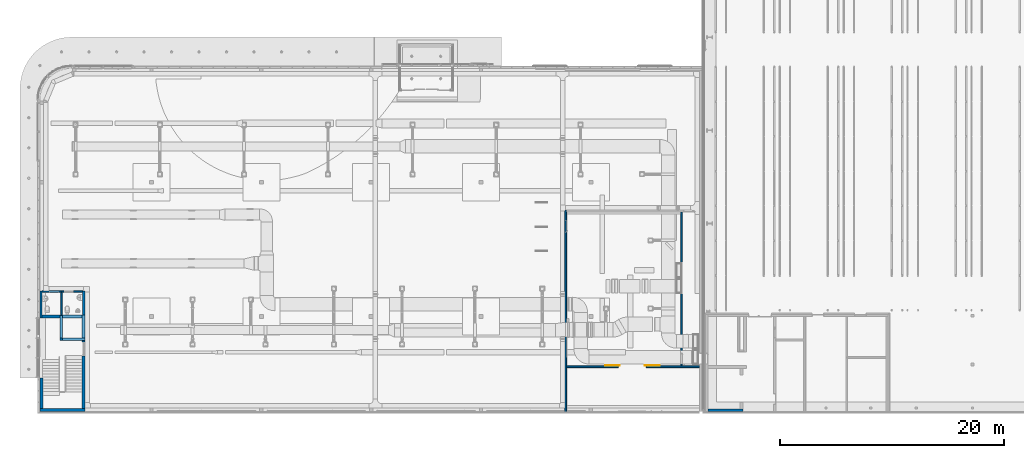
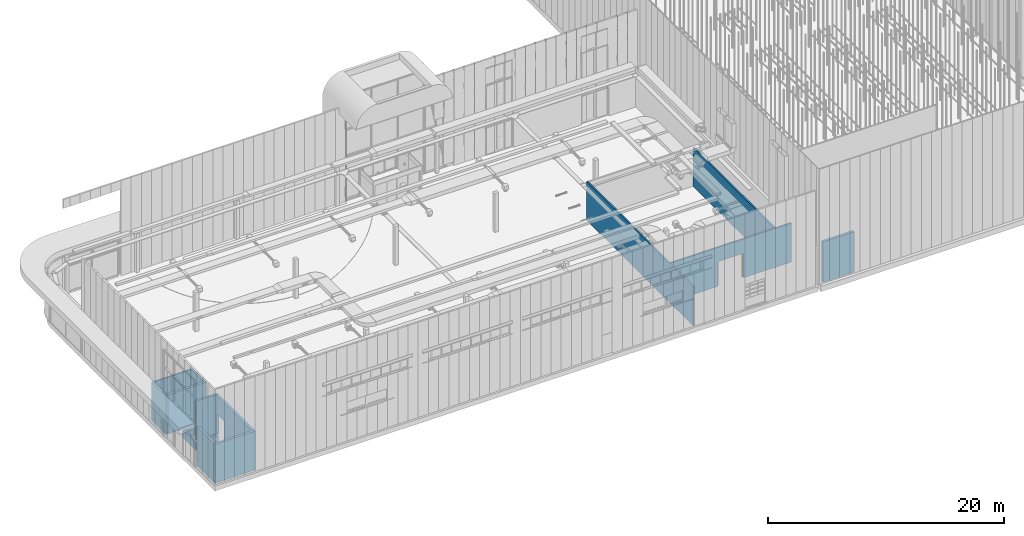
# One storey, part 208 of 302: 17 walls, 1 door, 9 openings.
"""IFC2X3 building model written with IfcOpenShell, lengths in metres."""

from ifc_helpers import new_model, entity, si_unit, converted_unit, derived_unit, direction, frame, frame_2d, origin, origin_2d_with_axis, place, context, subcontext, project, spatial, polyline, rectangle, outline, extrude, source, transform, mapped, material, material_list, layer, layer_set, layer_usage, type_object, type_shapes, element, fill, save


model = new_model("IFC2X3")

# Units and contexts
model_context = context("Model", 3, precision=1e-05, world=origin(), true_north=direction((6.12303176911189e-17, 1.0)))
body_context = subcontext(model_context, "Body", "Model", "MODEL_VIEW")
ifc_project = project(units=[si_unit("LENGTHUNIT", "METRE"), si_unit("AREAUNIT", "SQUARE_METRE"), si_unit("VOLUMEUNIT", "CUBIC_METRE"), converted_unit("PLANEANGLEUNIT", "DEGREE", entity("IfcRatioMeasure", 0.0174532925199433), si_unit("PLANEANGLEUNIT", "RADIAN"), dimensions=[0, 0, 0, 0, 0, 0, 0]), si_unit("MASSUNIT", "GRAM", prefix="KILO"), derived_unit("MASSDENSITYUNIT", [(si_unit("MASSUNIT", "GRAM", prefix="KILO"), 1), (si_unit("LENGTHUNIT", "METRE"), -3)]), derived_unit("MOMENTOFINERTIAUNIT", [(si_unit("LENGTHUNIT", "METRE"), 4)]), si_unit("TIMEUNIT", "SECOND"), si_unit("FREQUENCYUNIT", "HERTZ"), si_unit("THERMODYNAMICTEMPERATUREUNIT", "DEGREE_CELSIUS"), derived_unit("THERMALTRANSMITTANCEUNIT", [(si_unit("MASSUNIT", "GRAM", prefix="KILO"), 1), (si_unit("THERMODYNAMICTEMPERATUREUNIT", "KELVIN"), -1), (si_unit("TIMEUNIT", "SECOND"), -3)]), derived_unit("VOLUMETRICFLOWRATEUNIT", [(si_unit("LENGTHUNIT", "METRE"), 3), (si_unit("TIMEUNIT", "SECOND"), -1)]), si_unit("ELECTRICCURRENTUNIT", "AMPERE"), si_unit("ELECTRICVOLTAGEUNIT", "VOLT"), si_unit("POWERUNIT", "WATT"), si_unit("FORCEUNIT", "NEWTON", prefix="KILO"), si_unit("ILLUMINANCEUNIT", "LUX"), si_unit("LUMINOUSFLUXUNIT", "LUMEN"), si_unit("LUMINOUSINTENSITYUNIT", "CANDELA"), derived_unit("USERDEFINED", [(si_unit("MASSUNIT", "GRAM", prefix="KILO"), -1), (si_unit("LENGTHUNIT", "METRE"), -2), (si_unit("TIMEUNIT", "SECOND"), 3), (si_unit("LUMINOUSFLUXUNIT", "LUMEN"), 1)]), derived_unit("LINEARVELOCITYUNIT", [(si_unit("LENGTHUNIT", "METRE"), 1), (si_unit("TIMEUNIT", "SECOND"), -1)]), si_unit("PRESSUREUNIT", "PASCAL"), derived_unit("USERDEFINED", [(si_unit("LENGTHUNIT", "METRE"), -2), (si_unit("MASSUNIT", "GRAM", prefix="KILO"), 1), (si_unit("TIMEUNIT", "SECOND"), -2)]), derived_unit("LINEARFORCEUNIT", [(si_unit("MASSUNIT", "GRAM", prefix="KILO"), 1), (si_unit("LENGTHUNIT", "METRE"), 1), (si_unit("TIMEUNIT", "SECOND"), -2), (si_unit("LENGTHUNIT", "METRE"), -1)]), derived_unit("PLANARFORCEUNIT", [(si_unit("MASSUNIT", "GRAM", prefix="KILO"), 1), (si_unit("LENGTHUNIT", "METRE"), 1), (si_unit("TIMEUNIT", "SECOND"), -2), (si_unit("LENGTHUNIT", "METRE"), -2)])], contexts=[model_context])

# Site, building, storey
site_placement = place(None, origin())
site = spatial("IfcSite", under=ifc_project, at=site_placement, Name="Default", CompositionType="ELEMENT")
building_placement = place(site_placement, origin())
building = spatial("IfcBuilding", under=site, at=building_placement, CompositionType="ELEMENT")
storey_placement = place(building_placement, frame((0.0, 0.0, -1.3)))
storey = spatial("IfcBuildingStorey", under=building, at=storey_placement, Name="00_EG", CompositionType="ELEMENT", Elevation=-1.3)

# Walls
ifc_material_1 = material(Name="Concrete, Wand")
ifc_layer_1 = layer(ifc_material_1, 0.25)
ifc_layer_set_1 = layer_set([ifc_layer_1], Name="Basiswand:Betonwand aussen 250cm")
ifc_layer_usage_1 = layer_usage(ifc_layer_set_1, "AXIS2", "NEGATIVE", 0.125)
wall_type_1 = type_object("IfcWallType", Name="Basiswand:Betonwand aussen 250cm", PredefinedType="STANDARD", material=ifc_layer_set_1)
wall_1_placement = place(storey_placement, frame((-266.660111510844, 15.123088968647, 1.27)))
element("IfcWallStandardCase", 1, at=wall_1_placement, inside=storey, type_object=wall_type_1, material=ifc_layer_usage_1, Name="Basiswand:Betonwand aussen 250cm", ObjectType="Basiswand:Betonwand aussen 250cm", context=body_context, shape_type="SweptSolid", body=[
    extrude(rectangle(XDim=3.99999999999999, YDim=0.25, at=frame_2d((2.0, -1.52655665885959e-16), x_axis=(-1.0, 0.0))), origin(), (0.0, 0.0, 1.0), 4.03),
])
ifc_layer_usage_2 = layer_usage(ifc_layer_set_1, "AXIS2", "NEGATIVE", 0.125)
wall_2_placement = place(storey_placement, frame((-266.535111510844, 17.983088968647, 1.27), z_axis=(0.0, 0.0, 1.0), x_axis=(0.0, -1.0, 0.0)))
element("IfcWallStandardCase", 2, at=wall_2_placement, inside=storey, type_object=wall_type_1, material=ifc_layer_usage_2, Name="Basiswand:Betonwand aussen 250cm", ObjectType="Basiswand:Betonwand aussen 250cm", context=body_context, shape_type="SweptSolid", body=[
    extrude(rectangle(XDim=2.735, YDim=0.249999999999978, at=frame_2d((1.3675, 0.0), x_axis=(-1.0, 0.0))), origin(), (0.0, 0.0, 1.0), 4.03),
])
ifc_layer_2 = layer(ifc_material_1, 0.2)
ifc_layer_set_2 = layer_set([ifc_layer_2], Name="Basiswand:Betonwand innen 200cm")
ifc_layer_usage_3 = layer_usage(ifc_layer_set_2, "AXIS2", "NEGATIVE", 0.1)
wall_type_2 = type_object("IfcWallType", Name="Basiswand:Betonwand innen 200cm", PredefinedType="STANDARD", material=ifc_layer_set_2)
wall_3_placement = place(storey_placement, frame((-266.560111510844, 25.7230889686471, 1.27), z_axis=(0.0, 0.0, 1.0), x_axis=(0.0, -1.0, 0.0)))
element("IfcWallStandardCase", 3, at=wall_3_placement, inside=storey, type_object=wall_type_2, material=ifc_layer_usage_3, Name="Basiswand:Betonwand innen 200cm", ObjectType="Basiswand:Betonwand innen 200cm", context=body_context, shape_type="SweptSolid", body=[
    extrude(rectangle(XDim=2.40000000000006, YDim=0.200000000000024, at=frame_2d((1.20000000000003, 0.0), x_axis=(-1.0, 0.0))), origin(), (0.0, 0.0, 1.0), 4.03),
])
ifc_layer_usage_4 = layer_usage(ifc_layer_set_2, "AXIS2", "NEGATIVE", 0.1)
wall_4_placement = place(storey_placement, frame((-262.760111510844, 25.723088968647, 1.27), z_axis=(0.0, 0.0, 1.0), x_axis=(0.0, -1.0, 0.0)))
element("IfcWallStandardCase", 4, at=wall_4_placement, inside=storey, type_object=wall_type_2, material=ifc_layer_usage_4, Name="Basiswand:Betonwand innen 200cm", ObjectType="Basiswand:Betonwand innen 200cm", context=body_context, shape_type="SweptSolid", body=[
    extrude(rectangle(XDim=2.15, YDim=0.200000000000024, at=frame_2d((1.075, 2.29677388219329e-15), x_axis=(-1.0, 0.0))), origin(), (0.0, 0.0, 1.0), 4.03),
])
ifc_layer_usage_5 = layer_usage(ifc_layer_set_2, "AXIS2", "NEGATIVE", 0.1)
wall_5_placement = place(storey_placement, frame((-262.660111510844, 21.423088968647, 1.27), z_axis=(0.0, 0.0, 1.0), x_axis=(-1.0, 0.0, 0.0)))
element("IfcWallStandardCase", 5, at=wall_5_placement, inside=storey, type_object=wall_type_2, material=ifc_layer_usage_5, Name="Basiswand:Betonwand innen 200cm", ObjectType="Basiswand:Betonwand innen 200cm", context=body_context, shape_type="SweptSolid", body=[
    extrude(rectangle(XDim=2.19999999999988, YDim=0.199999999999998, at=frame_2d((1.09999999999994, 0.0), x_axis=(-1.0, 0.0))), origin(), (0.0, 0.0, 1.0), 4.03),
])
ifc_layer_usage_6 = layer_usage(ifc_layer_set_2, "AXIS2", "NEGATIVE", 0.1)
wall_6_placement = place(storey_placement, frame((-264.760111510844, 21.323088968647, 0.199999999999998), z_axis=(0.0, 0.0, 1.0), x_axis=(0.0, 1.0, 0.0)))
element("IfcWallStandardCase", 6, at=wall_6_placement, inside=storey, type_object=wall_type_2, material=ifc_layer_usage_6, Name="Basiswand:Betonwand innen 200cm", ObjectType="Basiswand:Betonwand innen 200cm", context=body_context, shape_type="SweptSolid", body=[
    extrude(rectangle(XDim=2.25, YDim=0.200000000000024, at=frame_2d((1.125, 0.0), x_axis=(-1.0, 0.0))), origin(), (0.0, 0.0, 1.0), 0.770000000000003),
])
ifc_layer_usage_7 = layer_usage(ifc_layer_set_2, "AXIS2", "NEGATIVE", 0.1)
wall_7_placement = place(storey_placement, frame((-262.660111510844, 21.423088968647, 0.199999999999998), z_axis=(0.0, 0.0, 1.0), x_axis=(-1.0, 0.0, 0.0)))
element("IfcWallStandardCase", 7, at=wall_7_placement, inside=storey, type_object=wall_type_2, material=ifc_layer_usage_7, Name="Basiswand:Betonwand innen 200cm", ObjectType="Basiswand:Betonwand innen 200cm", context=body_context, shape_type="SweptSolid", body=[
    extrude(rectangle(XDim=1.99999999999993, YDim=0.199999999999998, at=frame_2d((0.999999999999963, 0.0), x_axis=(-1.0, 0.0))), origin(), (0.0, 0.0, 1.0), 0.770000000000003),
])
ifc_layer_3 = layer(ifc_material_1, 0.25)
ifc_layer_set_3 = layer_set([ifc_layer_3], Name="Basiswand:Betonwand innen 250cm")
ifc_layer_usage_8 = layer_usage(ifc_layer_set_3, "AXIS2", "NEGATIVE", 0.125)
wall_type_3 = type_object("IfcWallType", Name="Basiswand:Betonwand innen 250cm", PredefinedType="STANDARD", material=ifc_layer_set_3)
wall_8_placement = place(storey_placement, frame((-262.660111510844, 23.448088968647, 1.27), z_axis=(0.0, 0.0, 1.0), x_axis=(-1.0, 0.0, 0.0)))
element("IfcWallStandardCase", 8, at=wall_8_placement, inside=storey, type_object=wall_type_3, material=ifc_layer_usage_8, Name="Basiswand:Betonwand innen 250cm", ObjectType="Basiswand:Betonwand innen 250cm", context=body_context, shape_type="SweptSolid", body=[
    extrude(rectangle(XDim=3.79999999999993, YDim=0.250000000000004, at=frame_2d((1.89999999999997, 0.0), x_axis=(-1.0, 0.0))), origin(), (0.0, 0.0, 1.0), 4.03),
])

# Wall, opening
ifc_layer_usage_9 = layer_usage(ifc_layer_set_3, "AXIS2", "NEGATIVE", 0.125)
wall_9_placement = place(storey_placement, frame((-262.785111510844, 21.323088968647, 1.27), z_axis=(0.0, 0.0, 1.0), x_axis=(0.0, -1.0, 0.0)))
wall_9 = element("IfcWallStandardCase", 9, at=wall_9_placement, inside=storey, type_object=wall_type_3, material=ifc_layer_usage_9, Name="Basiswand:Betonwand innen 250cm", ObjectType="Basiswand:Betonwand innen 250cm", context=body_context, shape_type="SweptSolid", body=[
    extrude(rectangle(XDim=6.07500000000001, YDim=0.249999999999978, at=frame_2d((3.03750000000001, 9.48546796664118e-15), x_axis=(-1.0, 0.0))), origin(), (0.0, 0.0, 1.0), 4.03),
])
opening_1_placement = place(wall_9_placement, frame((21.323088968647, 262.785111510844, -1.27), z_axis=(0.0, 0.0, 1.0), x_axis=(0.0, 1.0, 0.0)))
element("IfcOpeningElement", 10, at=opening_1_placement, cuts=wall_9, Name="Basiswand:Betonwand innen 250cm", ObjectType="Opening", context=body_context, shape_type="SweptSolid", body=[
    extrude(rectangle(XDim=2.16999999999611, YDim=1.27999999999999, at=frame_2d((-2.38142838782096e-14, 4.44089209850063e-16), x_axis=(0.0, 1.0))), frame((-262.910111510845, 20.5530889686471, 2.32499999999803), z_axis=(1.0, 0.0, 0.0), x_axis=(0.0, -1.0, 0.0)), (0.0, 0.0, 1.0), 0.250000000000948),
])

# Walls
ifc_layer_usage_10 = layer_usage(ifc_layer_set_3, "AXIS2", "NEGATIVE", 0.125)
wall_10_placement = place(storey_placement, frame((-262.785111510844, 23.573088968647, 0.199999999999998), z_axis=(0.0, 0.0, 1.0), x_axis=(0.0, -1.0, 0.0)))
element("IfcWallStandardCase", 11, at=wall_10_placement, inside=storey, type_object=wall_type_3, material=ifc_layer_usage_10, Name="Basiswand:Betonwand innen 250cm", ObjectType="Basiswand:Betonwand innen 250cm", context=body_context, shape_type="SweptSolid", body=[
    extrude(rectangle(XDim=2.05000000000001, YDim=0.249999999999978, at=frame_2d((1.025, 1.5404344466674e-15), x_axis=(-1.0, 0.0))), origin(), (0.0, 0.0, 1.0), 0.770000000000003),
])
ifc_layer_usage_11 = layer_usage(ifc_layer_set_3, "AXIS2", "NEGATIVE", 0.125)
wall_11_placement = place(storey_placement, frame((-264.660111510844, 23.448088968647, 0.199999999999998)))
element("IfcWallStandardCase", 12, at=wall_11_placement, inside=storey, type_object=wall_type_3, material=ifc_layer_usage_11, Name="Basiswand:Betonwand innen 250cm", ObjectType="Basiswand:Betonwand innen 250cm", context=body_context, shape_type="SweptSolid", body=[
    extrude(rectangle(XDim=1.74999999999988, YDim=0.250000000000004, at=frame_2d((0.87499999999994, 0.0), x_axis=(-1.0, 0.0))), origin(), (0.0, 0.0, 1.0), 0.770000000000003),
])
ifc_layer_usage_12 = layer_usage(ifc_layer_set_3, "AXIS2", "NEGATIVE", 0.125)
wall_12_placement = place(storey_placement, frame((-207.130111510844, 15.083088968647, 1.27)))
element("IfcWallStandardCase", 13, at=wall_12_placement, inside=storey, type_object=wall_type_3, material=ifc_layer_usage_12, Name="Basiswand:Betonwand innen 250cm", ObjectType="Basiswand:Betonwand innen 250cm", context=body_context, shape_type="SweptSolid", body=[
    extrude(rectangle(XDim=3.10000000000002, YDim=0.249999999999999, at=frame_2d((1.55000000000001, 0.0), x_axis=(-1.0, 0.0))), origin(), (0.0, 0.0, 1.0), 4.18),
])

# Wall, openings
ifc_material_2 = material(Name="Backstein")
ifc_layer_4 = layer(ifc_material_2, 0.125)
ifc_layer_set_4 = layer_set([ifc_layer_4], Name="Basiswand:Backstein innen 125cm")
ifc_layer_usage_13 = layer_usage(ifc_layer_set_4, "AXIS2", "NEGATIVE", 0.0625)
wall_type_4 = type_object("IfcWallType", Name="Basiswand:Backstein innen 125cm", PredefinedType="STANDARD", material=ifc_layer_set_4)
wall_13_placement = place(storey_placement, frame((-262.860111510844, 25.660588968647, 1.27), z_axis=(0.0, 0.0, 1.0), x_axis=(-1.0, 0.0, 0.0)))
wall_13 = element("IfcWallStandardCase", 14, at=wall_13_placement, inside=storey, type_object=wall_type_4, material=ifc_layer_usage_13, Name="Basiswand:Backstein innen 125cm", ObjectType="Basiswand:Backstein innen 125cm", context=body_context, shape_type="SweptSolid", body=[
    extrude(rectangle(XDim=3.59999999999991, YDim=0.124999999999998, at=frame_2d((1.79999999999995, -9.0205620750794e-16), x_axis=(-1.0, 0.0))), origin(), (0.0, 0.0, 1.0), 4.03),
])
opening_2_placement = place(wall_13_placement, frame((1.67499999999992, 0.0624999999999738, -0.180000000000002)))
element("IfcOpeningElement", 15, at=opening_2_placement, cuts=wall_13, Name="TU DF 1 - Rahmenstock flächenbündig:Türe innen 1-Teilig 0.88 x 2.14:1", ObjectType="Opening", context=body_context, shape_type="SweptSolid", body=[
    extrude(rectangle(XDim=2.32, YDim=0.88, at=frame_2d((1.16, 0.440000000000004), x_axis=(-1.0, 0.0))), frame((0.0, 0.0, 0.0), z_axis=(0.0, -1.0, 0.0), x_axis=(0.0, 0.0, 1.0)), (0.0, 0.0, 1.0), 0.125),
])
opening_3_placement = place(wall_13_placement, frame((2.97999999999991, 0.18749999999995, -0.180000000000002)))
element("IfcOpeningElement", 16, at=opening_3_placement, cuts=wall_13, Name="TU DF 1 - Rahmenstock flächenbündig:Türe innen 1-Teilig 0.88 x 2.14:1", ObjectType="Opening", context=body_context, shape_type="SweptSolid", body=[
    extrude(rectangle(XDim=2.32, YDim=0.88, at=frame_2d((1.16, 0.440000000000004), x_axis=(-1.0, 0.0))), frame((0.0, 0.0, 0.0), z_axis=(0.0, -1.0, 0.0), x_axis=(0.0, 0.0, 1.0)), (0.0, 0.0, 1.0), 0.125),
])

# Wall
ifc_layer_usage_14 = layer_usage(ifc_layer_set_4, "AXIS2", "NEGATIVE", 0.0625)
wall_14_placement = place(storey_placement, frame((-264.747611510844, 25.598088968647, 1.27), z_axis=(0.0, 0.0, 1.0), x_axis=(0.0, -1.0, 0.0)))
element("IfcWallStandardCase", 17, at=wall_14_placement, inside=storey, type_object=wall_type_4, material=ifc_layer_usage_14, Name="Basiswand:Backstein innen 125cm", ObjectType="Basiswand:Backstein innen 125cm", context=body_context, shape_type="SweptSolid", body=[
    extrude(rectangle(XDim=2.02500000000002, YDim=0.124999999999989, at=frame_2d((1.01250000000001, 0.0), x_axis=(-1.0, 0.0))), origin(), (0.0, 0.0, 1.0), 4.03),
])

# Wall, openings
ifc_layer_5 = layer(ifc_material_2, 0.15)
ifc_layer_set_5 = layer_set([ifc_layer_5], Name="Basiswand:Backstein innen 150cm")
ifc_layer_usage_15 = layer_usage(ifc_layer_set_5, "AXIS2", "NEGATIVE", 0.075)
wall_type_5 = type_object("IfcWallType", Name="Basiswand:Backstein innen 150cm", PredefinedType="STANDARD", material=ifc_layer_set_5)
wall_15_placement = place(storey_placement, frame((-219.810111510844, 14.898088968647, 1.27), z_axis=(0.0, 0.0, 1.0), x_axis=(0.0, 1.0, 0.0)))
wall_15 = element("IfcWallStandardCase", 18, at=wall_15_placement, inside=storey, type_object=wall_type_5, material=ifc_layer_usage_15, Name="Basiswand:Backstein innen 150cm", ObjectType="Basiswand:Backstein innen 150cm", context=body_context, shape_type="SweptSolid", body=[
    extrude(rectangle(XDim=18.0209999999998, YDim=0.150000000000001, at=frame_2d((9.01049999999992, 0.0), x_axis=(-1.0, 0.0))), origin(), (0.0, 0.0, 1.0), 4.03),
])
opening_4_placement = place(wall_15_placement, frame((17.125, 0.225000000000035, -0.180000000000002)))
element("IfcOpeningElement", 19, at=opening_4_placement, cuts=wall_15, Name="TU DF 1 - Rahmenstock flächenbündig:Türe innen 1-Teilig 1.08 x 2.14:1", ObjectType="Opening", context=body_context, shape_type="SweptSolid", body=[
    extrude(rectangle(XDim=2.32, YDim=1.08, at=frame_2d((1.16, 0.540000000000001), x_axis=(-1.0, 0.0))), frame((0.0, 0.0, 0.0), z_axis=(0.0, -1.0, 0.0), x_axis=(0.0, 0.0, 1.0)), (0.0, 0.0, 1.0), 0.15),
])
opening_5_placement = place(wall_15_placement, frame((6.89499999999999, -0.0749999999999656, 0.0)))
element("IfcOpeningElement", 20, at=opening_5_placement, cuts=wall_15, Name="Assa_Abloy_RR300:Schnelllauftor 2.00 x 2.50:1", ObjectType="Opening", context=body_context, shape_type="SweptSolid", body=[
    extrude(rectangle(XDim=2.5, YDim=2.0, at=frame_2d((1.25, 0.999999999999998), x_axis=(1.0, 0.0))), frame((0.0, 0.0, 0.0), z_axis=(0.0, -1.0, 0.0), x_axis=(0.0, 0.0, 1.0)), (0.0, 0.0, 1.0), 0.15),
])

# Wall, openings, door
ifc_layer_usage_16 = layer_usage(ifc_layer_set_5, "AXIS2", "NEGATIVE", 0.075)
wall_16_placement = place(storey_placement, frame((-207.910111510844, 18.968088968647, 1.27), z_axis=(0.0, 0.0, 1.0), x_axis=(-1.0, 0.0, 0.0)))
wall_16 = element("IfcWallStandardCase", 21, at=wall_16_placement, inside=storey, type_object=wall_type_5, material=ifc_layer_usage_16, Name="Basiswand:Backstein innen 150cm", ObjectType="Basiswand:Backstein innen 150cm", context=body_context, shape_type="SweptSolid", body=[
    extrude(rectangle(XDim=11.825, YDim=0.150000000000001, at=frame_2d((5.91250000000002, 5.06539254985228e-16), x_axis=(-1.0, 0.0))), origin(), (0.0, 0.0, 1.0), 4.03),
])
opening_6_placement = place(wall_16_placement, frame((-207.910111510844, 18.968088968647, -1.27), z_axis=(0.0, 0.0, 1.0), x_axis=(-1.0, 0.0, 0.0)))
opening_6 = element("IfcOpeningElement", 22, at=opening_6_placement, cuts=wall_16, Name="Basiswand:Backstein innen 150cm", ObjectType="Opening", context=body_context, shape_type="SweptSolid", body=[
    extrude(rectangle(XDim=2.52999999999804, YDim=2.49999999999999, at=frame_2d((3.46389583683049e-14, 0.0), x_axis=(0.0, 1.0))), frame((-213.870111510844, 19.043088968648, 2.53499999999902), z_axis=(0.0, -1.0, 0.0), x_axis=(-1.0, 0.0, 0.0)), (0.0, 0.0, 1.0), 0.150000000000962),
])
ifc_material_3 = material(Name="<Unnamed>")
ifc_material_4 = material(Name="Metall - Edelstahl satiniert")
ifc_material_list_1 = material_list([ifc_material_3, ifc_material_4, ifc_material_4, ifc_material_3, ifc_material_4, ifc_material_4])
ifc_material_list_2 = material_list([ifc_material_3, ifc_material_4, ifc_material_4, ifc_material_3, ifc_material_4, ifc_material_4])
door_style = type_object("IfcDoorStyle", Name="TU SF 2 - Schiebetüre Aufgesetzt:Schiebetüre 2 tlg 2.50 x 2.50", ConstructionType="NOTDEFINED", OperationType="DOUBLE_DOOR_SLIDING", ParameterTakesPrecedence=False, Sizeable=False, material=ifc_material_list_2)
shared_shape = source(origin(), body_context, "Body", "SweptSolid", [
    extrude(outline(polyline([(-0.0224999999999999, -0.96875), (0.0224999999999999, -0.96875), (0.0224999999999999, 0.326250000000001), (0.0112500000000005, 0.326250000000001), (0.00925000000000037, 0.31625), (-0.00924999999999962, 0.31625), (-0.0112500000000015, 0.32625), (-0.0224999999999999, 0.326250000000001), (-0.0224999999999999, -0.96875)])), frame((-0.196250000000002, 0.182500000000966, 0.0299999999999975), z_axis=(0.0, 0.0, 1.0), x_axis=(0.0, -1.0, 0.0)), (0.0, 0.0, 1.0), 2.5),
    extrude(rectangle(XDim=0.0199999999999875, YDim=0.029, at=frame_2d((6.76542155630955e-17, 0.0), x_axis=(1.0, 0.0))), frame((0.0599999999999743, 0.182500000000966, 1.035)), (0.0, 0.0, 1.0), 0.0900000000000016),
    extrude(outline(polyline([(-0.0149999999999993, -0.0600000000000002), (0.0149999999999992, -0.0600000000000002), (0.0149999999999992, 0.0600000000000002), (-0.0149999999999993, 0.0600000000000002), (-0.0149999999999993, -0.0600000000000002)]), holes=[polyline([(-0.0099999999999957, 0.0450000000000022), (0.00999999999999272, 0.0450000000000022), (0.00999999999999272, -0.0450000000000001), (-0.0099999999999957, -0.0450000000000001), (-0.0099999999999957, 0.0450000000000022)])]), frame((0.0599999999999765, 0.160000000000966, 1.08), z_axis=(0.0, 1.0, 0.0), x_axis=(1.0, 0.0, 0.0)), (0.0, 0.0, 1.0), 0.045),
    extrude(outline(polyline([(-0.96625, -0.0224999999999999), (0.31875, -0.0224999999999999), (0.31875, -0.0112500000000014), (0.32875, -0.00924999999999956), (0.32875, 0.0092500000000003), (0.31875, 0.0112500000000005), (0.31875, 0.0225), (-0.96625, 0.0225), (-0.96625, -0.0224999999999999)])), frame((2.69875, 0.182500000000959, 0.0299999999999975), z_axis=(0.0, 0.0, 1.0), x_axis=(-1.0, 0.0, 0.0)), (0.0, 0.0, 1.0), 2.5),
    extrude(rectangle(XDim=0.029, YDim=0.0199999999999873, at=origin_2d_with_axis()), frame((2.44000000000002, 0.18250000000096, 1.035), z_axis=(0.0, 0.0, 1.0), x_axis=(0.0, 1.0, 0.0)), (0.0, 0.0, 1.0), 0.0900000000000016),
    extrude(outline(polyline([(-0.0600000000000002, -0.0149999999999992), (0.0600000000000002, -0.0149999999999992), (0.0600000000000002, 0.0149999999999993), (-0.0600000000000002, 0.0149999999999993), (-0.0600000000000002, -0.0149999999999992)]), holes=[polyline([(0.0450000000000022, -0.00999999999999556), (-0.0450000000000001, -0.00999999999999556), (-0.0450000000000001, 0.00999999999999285), (0.0450000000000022, 0.00999999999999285), (0.0450000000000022, -0.00999999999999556)])]), frame((2.44000000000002, 0.16000000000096, 1.08), z_axis=(0.0, 1.0, 0.0), x_axis=(0.0, 0.0, -1.0)), (0.0, 0.0, 1.0), 0.045),
])
type_shapes(door_style, [shared_shape])
door_placement = place(opening_6_placement, frame((-215.120111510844, 18.893088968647, 1.27)))
door = element("IfcDoor", 23, at=door_placement, inside=storey, type_object=door_style, material=ifc_material_list_1, Name="TU SF 2 - Schiebetüre Aufgesetzt:Schiebetüre 2 tlg 2.50 x 2.50", ObjectType="TU SF 2 - Schiebetüre Aufgesetzt:Schiebetüre 2 tlg 2.50 x 2.50", OverallHeight=2.52999999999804, OverallWidth=2.49999999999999, context=body_context, shape_type="MappedRepresentation", body=[
    mapped(shared_shape, transform((0.0, 0.0, 0.0), scale=1.0)),
])
fill(opening_6, door)
opening_7_placement = place(None, frame((1.25000000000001, 0.0748840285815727, -1.27)))
element("IfcOpeningElement", 24, at=opening_7_placement, cuts=door, Name="TU SF 2 - Schiebetüre Aufgesetzt:Schiebetüre 2 tlg 2.50 x 2.50:1", ObjectType="Opening", context=body_context, shape_type="SweptSolid", body=[
    extrude(rectangle(XDim=0.12, YDim=0.0299999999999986, at=frame_2d((0.0, 0.0), x_axis=(0.0, 1.0))), frame((1.19000000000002, 0.130115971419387, 2.35), z_axis=(0.0, -1.0, 0.0), x_axis=(-1.0, 0.0, 0.0)), (0.0, 0.0, 1.0), 0.0449999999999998),
])
opening_8_placement = place(None, frame((1.25000000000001, 0.0748840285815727, -1.27)))
element("IfcOpeningElement", 25, at=opening_8_placement, cuts=door, Name="TU SF 2 - Schiebetüre Aufgesetzt:Schiebetüre 2 tlg 2.50 x 2.50:2", ObjectType="Opening", context=body_context, shape_type="SweptSolid", body=[
    extrude(rectangle(XDim=0.12, YDim=0.0299999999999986, at=origin_2d_with_axis()), frame((-1.19000000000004, 0.0851159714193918, 2.35), z_axis=(0.0, 1.0, 0.0), x_axis=(0.0, 0.0, -1.0)), (0.0, 0.0, 1.0), 0.0449999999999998),
])

# Wall, opening
ifc_layer_usage_17 = layer_usage(ifc_layer_set_5, "AXIS2", "NEGATIVE", 0.075)
wall_17_placement = place(storey_placement, frame((-209.485111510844, 32.7690889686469, 1.27), z_axis=(0.0, 0.0, 1.0), x_axis=(0.0, -1.0, 0.0)))
wall_17 = element("IfcWallStandardCase", 26, at=wall_17_placement, inside=storey, type_object=wall_type_5, material=ifc_layer_usage_17, Name="Basiswand:Backstein innen 150cm", ObjectType="Basiswand:Backstein innen 150cm", context=body_context, shape_type="SweptSolid", body=[
    extrude(rectangle(XDim=13.7259999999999, YDim=0.150000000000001, at=frame_2d((6.86299999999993, 0.0), x_axis=(-1.0, 0.0))), origin(), (0.0, 0.0, 1.0), 4.03),
])
opening_9_placement = place(wall_17_placement, frame((13.5759999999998, 0.0749999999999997, -0.180000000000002)))
element("IfcOpeningElement", 27, at=opening_9_placement, cuts=wall_17, Name="TU DF 1 - Rahmenstock flächenbündig:Türe innen 1-Teilig 0.98 x 2.14:1", ObjectType="Opening", context=body_context, shape_type="SweptSolid", body=[
    extrude(rectangle(XDim=2.32, YDim=0.979999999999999, at=frame_2d((1.16, 0.490000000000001), x_axis=(-1.0, 0.0))), frame((0.0, 0.0, 0.0), z_axis=(0.0, -1.0, 0.0), x_axis=(0.0, 0.0, 1.0)), (0.0, 0.0, 1.0), 0.15),
])

save(model, "model.ifc")
